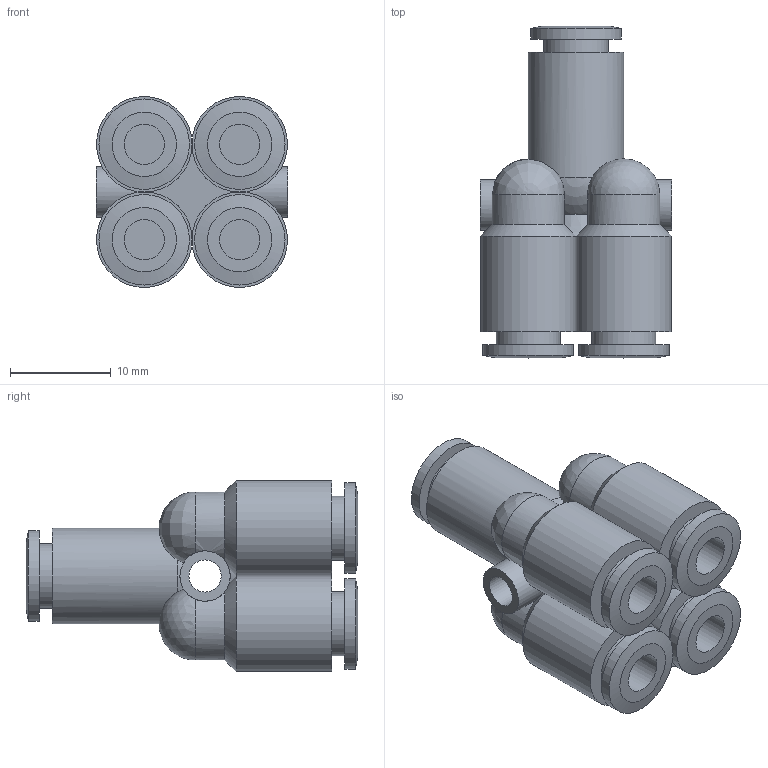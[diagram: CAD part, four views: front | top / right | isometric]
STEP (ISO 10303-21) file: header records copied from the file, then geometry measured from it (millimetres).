
FILE_DESCRIPTION((''),'2;1');
FILE_NAME('C:\Documents and Settings\rivolro1\Documenti\copia di Raccordi\PLASTICA\T24XXXX\T240400.stp','2007-11-02T15:05:03',('Rivolro1'),(''),'Autodesk Inventor 2008','Autodesk Inventor 2008','');
FILE_SCHEMA(('AUTOMOTIVE_DESIGN { 1 0 10303 214 1 1 1 1 }'));
Length unit declared in the file: millimetre
Products named in the file (1): T240400
Bounding box: 19 x 33 x 19 mm (x, y, z)
Volume: 4911.8 mm3; surface area: 4025.3 mm2
Topology: 1 solids, 1 shells, 89 faces, 222 edges, 136 vertices
Faces by surface type: cylinder 30, bspline 29, plane 15, cone 9, sphere 6
Full cylindrical faces by diameter (mm): 4 x3, 5 x2, 6.4 x3, 9 x3, 9.5 x1
Entity records: 3351 total; most frequent: CARTESIAN_POINT 1481, ORIENTED_EDGE 368, DIRECTION 342, EDGE_CURVE 184, AXIS2_PLACEMENT_3D 163, VERTEX_POINT 130, EDGE_LOOP 128, CIRCLE 104
